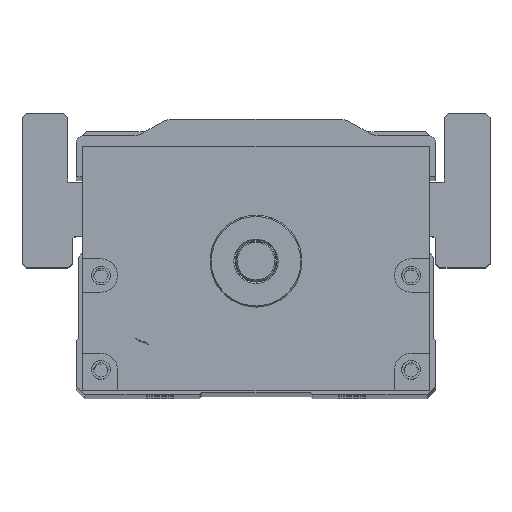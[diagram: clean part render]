
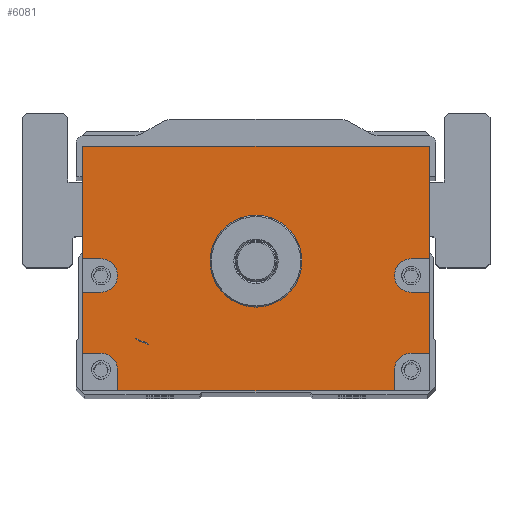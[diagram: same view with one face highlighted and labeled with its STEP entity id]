
A CAD part, top view. The second image highlights one B-rep face of the part: STEP entity #6081.
In plain terms, the highlighted planar face has unit normal (0, 0, 1).
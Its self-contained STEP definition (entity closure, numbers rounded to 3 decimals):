
#570=LINE('',#28871,#1412);
#572=LINE('',#28879,#1414);
#573=LINE('',#28882,#1415);
#574=LINE('',#28884,#1416);
#575=LINE('',#28888,#1417);
#576=LINE('',#28890,#1418);
#577=LINE('',#28891,#1419);
#578=LINE('',#28893,#1420);
#579=LINE('',#28897,#1421);
#580=LINE('',#28899,#1422);
#581=LINE('',#28901,#1423);
#582=LINE('',#28905,#1424);
#583=LINE('',#28907,#1425);
#584=LINE('',#28909,#1426);
#1412=VECTOR('',#16903,1.);
#1414=VECTOR('',#16911,1.);
#1415=VECTOR('',#16912,1.);
#1416=VECTOR('',#16913,1.);
#1417=VECTOR('',#16916,1.);
#1418=VECTOR('',#16917,1.);
#1419=VECTOR('',#16918,1.);
#1420=VECTOR('',#16919,1.);
#1421=VECTOR('',#16922,1.);
#1422=VECTOR('',#16923,1.);
#1423=VECTOR('',#16924,1.);
#1424=VECTOR('',#16927,1.);
#1425=VECTOR('',#16928,1.);
#1426=VECTOR('',#16929,1.);
#5525=FACE_BOUND('',#7728,.T.);
#5526=FACE_BOUND('',#7729,.T.);
#6081=ADVANCED_FACE('',(#5525,#5526),#6664,.T.);
#6664=PLANE('',#15229);
#7728=EDGE_LOOP('',(#9355,#9356,#9357,#9358,#9359,#9360,#9361,#9362,#9363,
#9364,#9365,#9366,#9367,#9368,#9369,#9370,#9371,#9372));
#7729=EDGE_LOOP('',(#9373));
#9355=ORIENTED_EDGE('',*,*,#13266,.F.);
#9356=ORIENTED_EDGE('',*,*,#13267,.T.);
#9357=ORIENTED_EDGE('',*,*,#13268,.F.);
#9358=ORIENTED_EDGE('',*,*,#13269,.F.);
#9359=ORIENTED_EDGE('',*,*,#13270,.F.);
#9360=ORIENTED_EDGE('',*,*,#13271,.T.);
#9361=ORIENTED_EDGE('',*,*,#13262,.T.);
#9362=ORIENTED_EDGE('',*,*,#13272,.T.);
#9363=ORIENTED_EDGE('',*,*,#13273,.F.);
#9364=ORIENTED_EDGE('',*,*,#13274,.F.);
#9365=ORIENTED_EDGE('',*,*,#13275,.F.);
#9366=ORIENTED_EDGE('',*,*,#13276,.T.);
#9367=ORIENTED_EDGE('',*,*,#13277,.F.);
#9368=ORIENTED_EDGE('',*,*,#13278,.F.);
#9369=ORIENTED_EDGE('',*,*,#13279,.F.);
#9370=ORIENTED_EDGE('',*,*,#13280,.T.);
#9371=ORIENTED_EDGE('',*,*,#13281,.F.);
#9372=ORIENTED_EDGE('',*,*,#13282,.F.);
#9373=ORIENTED_EDGE('',*,*,#13248,.T.);
#11970=VERTEX_POINT('',#28842);
#11983=VERTEX_POINT('',#28870);
#11984=VERTEX_POINT('',#28872);
#11987=VERTEX_POINT('',#28880);
#11988=VERTEX_POINT('',#28881);
#11989=VERTEX_POINT('',#28883);
#11990=VERTEX_POINT('',#28885);
#11991=VERTEX_POINT('',#28887);
#11992=VERTEX_POINT('',#28889);
#11993=VERTEX_POINT('',#28892);
#11994=VERTEX_POINT('',#28894);
#11995=VERTEX_POINT('',#28896);
#11996=VERTEX_POINT('',#28898);
#11997=VERTEX_POINT('',#28900);
#11998=VERTEX_POINT('',#28902);
#11999=VERTEX_POINT('',#28904);
#12000=VERTEX_POINT('',#28906);
#12001=VERTEX_POINT('',#28908);
#12002=VERTEX_POINT('',#28910);
#13248=EDGE_CURVE('',#11970,#11970,#14546,.T.);
#13262=EDGE_CURVE('',#11984,#11983,#570,.T.);
#13266=EDGE_CURVE('',#11987,#11988,#572,.T.);
#13267=EDGE_CURVE('',#11987,#11989,#573,.T.);
#13268=EDGE_CURVE('',#11990,#11989,#574,.T.);
#13269=EDGE_CURVE('',#11991,#11990,#14557,.T.);
#13270=EDGE_CURVE('',#11992,#11991,#575,.T.);
#13271=EDGE_CURVE('',#11992,#11984,#576,.T.);
#13272=EDGE_CURVE('',#11983,#11993,#577,.T.);
#13273=EDGE_CURVE('',#11994,#11993,#578,.T.);
#13274=EDGE_CURVE('',#11995,#11994,#14558,.T.);
#13275=EDGE_CURVE('',#11996,#11995,#579,.T.);
#13276=EDGE_CURVE('',#11996,#11997,#580,.T.);
#13277=EDGE_CURVE('',#11998,#11997,#581,.T.);
#13278=EDGE_CURVE('',#11999,#11998,#14559,.T.);
#13279=EDGE_CURVE('',#12000,#11999,#582,.T.);
#13280=EDGE_CURVE('',#12000,#12001,#583,.T.);
#13281=EDGE_CURVE('',#12002,#12001,#584,.T.);
#13282=EDGE_CURVE('',#11988,#12002,#14560,.T.);
#14546=CIRCLE('',#15211,11.);
#14557=CIRCLE('',#15225,4.);
#14558=CIRCLE('',#15226,4.);
#14559=CIRCLE('',#15227,4.);
#14560=CIRCLE('',#15228,4.);
#15211=AXIS2_PLACEMENT_3D('',#28841,#16876,#16877);
#15225=AXIS2_PLACEMENT_3D('',#28886,#16914,#16915);
#15226=AXIS2_PLACEMENT_3D('',#28895,#16920,#16921);
#15227=AXIS2_PLACEMENT_3D('',#28903,#16925,#16926);
#15228=AXIS2_PLACEMENT_3D('',#28911,#16930,#16931);
#15229=AXIS2_PLACEMENT_3D('',#28912,#16932,#16933);
#16876=DIRECTION('',(0.,0.,-1.));
#16877=DIRECTION('',(1.,0.,0.));
#16903=DIRECTION('',(-1.,0.,0.));
#16911=DIRECTION('',(-1.,0.,0.));
#16912=DIRECTION('',(0.,1.,0.));
#16913=DIRECTION('',(1.,0.,0.));
#16914=DIRECTION('',(0.,0.,1.));
#16915=DIRECTION('',(1.,0.,0.));
#16916=DIRECTION('',(-1.,0.,0.));
#16917=DIRECTION('',(0.,1.,0.));
#16918=DIRECTION('',(0.,-1.,0.));
#16919=DIRECTION('',(-1.,0.,0.));
#16920=DIRECTION('',(0.,0.,1.));
#16921=DIRECTION('',(1.,0.,0.));
#16922=DIRECTION('',(1.,0.,0.));
#16923=DIRECTION('',(0.,-1.,0.));
#16924=DIRECTION('',(-1.,0.,0.));
#16925=DIRECTION('',(0.,0.,1.));
#16926=DIRECTION('',(1.,0.,0.));
#16927=DIRECTION('',(0.,1.,0.));
#16928=DIRECTION('',(1.,0.,0.));
#16929=DIRECTION('',(0.,-1.,0.));
#16930=DIRECTION('',(0.,0.,1.));
#16931=DIRECTION('',(1.,0.,0.));
#16932=DIRECTION('',(0.,0.,1.));
#16933=DIRECTION('',(1.,0.,0.));
#28841=CARTESIAN_POINT('',(450.,0.,382.5));
#28842=CARTESIAN_POINT('',(461.,0.,382.5));
#28870=CARTESIAN_POINT('',(408.5,27.5,382.5));
#28871=CARTESIAN_POINT('',(491.5,27.5,382.5));
#28872=CARTESIAN_POINT('',(491.5,27.5,382.5));
#28879=CARTESIAN_POINT('',(491.5,-22.,382.5));
#28880=CARTESIAN_POINT('',(491.5,-22.,382.5));
#28881=CARTESIAN_POINT('',(487.115,-22.,382.5));
#28882=CARTESIAN_POINT('',(491.5,-31.,382.5));
#28883=CARTESIAN_POINT('',(491.5,-7.431,382.5));
#28884=CARTESIAN_POINT('',(491.5,-7.431,382.5));
#28885=CARTESIAN_POINT('',(487.115,-7.431,382.5));
#28886=CARTESIAN_POINT('',(487.115,-3.431,382.5));
#28887=CARTESIAN_POINT('',(487.115,0.569,382.5));
#28888=CARTESIAN_POINT('',(491.5,0.569,382.5));
#28889=CARTESIAN_POINT('',(491.5,0.569,382.5));
#28890=CARTESIAN_POINT('',(491.5,-31.,382.5));
#28891=CARTESIAN_POINT('',(408.5,27.5,382.5));
#28892=CARTESIAN_POINT('',(408.5,0.569,382.5));
#28893=CARTESIAN_POINT('',(491.5,0.569,382.5));
#28894=CARTESIAN_POINT('',(412.885,0.569,382.5));
#28895=CARTESIAN_POINT('',(412.885,-3.431,382.5));
#28896=CARTESIAN_POINT('',(412.885,-7.431,382.5));
#28897=CARTESIAN_POINT('',(491.5,-7.431,382.5));
#28898=CARTESIAN_POINT('',(408.5,-7.431,382.5));
#28899=CARTESIAN_POINT('',(408.5,27.5,382.5));
#28900=CARTESIAN_POINT('',(408.5,-22.,382.5));
#28901=CARTESIAN_POINT('',(491.5,-22.,382.5));
#28902=CARTESIAN_POINT('',(412.885,-22.,382.5));
#28903=CARTESIAN_POINT('',(412.885,-26.,382.5));
#28904=CARTESIAN_POINT('',(416.885,-26.,382.5));
#28905=CARTESIAN_POINT('',(416.885,-31.,382.5));
#28906=CARTESIAN_POINT('',(416.885,-31.,382.5));
#28907=CARTESIAN_POINT('',(408.5,-31.,382.5));
#28908=CARTESIAN_POINT('',(483.115,-31.,382.5));
#28909=CARTESIAN_POINT('',(483.115,-31.,382.5));
#28910=CARTESIAN_POINT('',(483.115,-26.,382.5));
#28911=CARTESIAN_POINT('',(487.115,-26.,382.5));
#28912=CARTESIAN_POINT('',(491.5,-31.,382.5));
